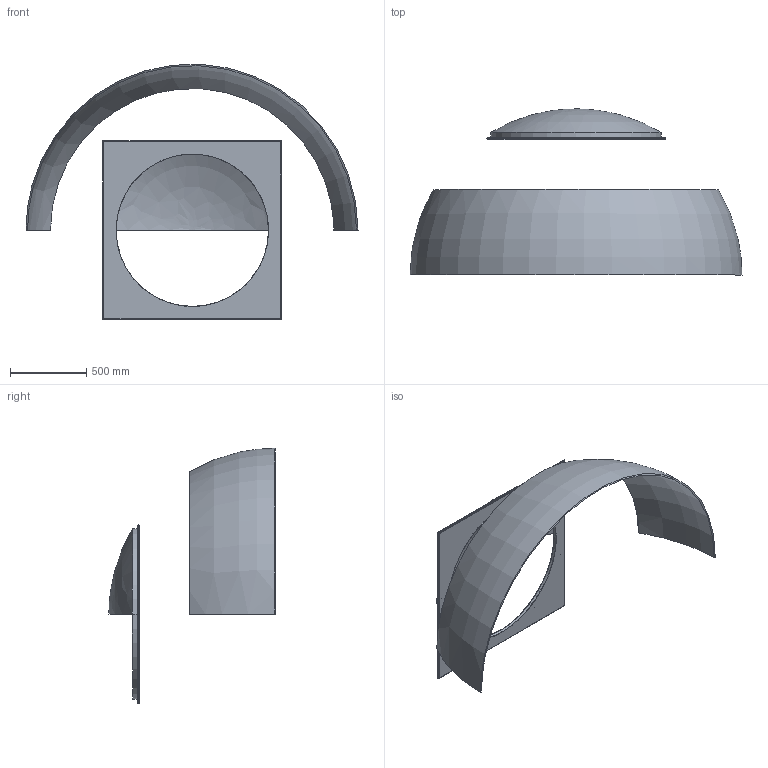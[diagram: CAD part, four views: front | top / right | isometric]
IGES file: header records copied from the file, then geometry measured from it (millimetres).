
Start section: SolidWorks IGES file using analytic representation for surfaces
Global section: file name: C:\Users\Stagiaire\Desktop\Rendu 3D\COUPOLE\794 Coupole 100\794_COUPOLE_100.IGS; native system: SolidWorks 2014; preprocessor: SolidWorks 2014; author: Stagiaire; date: 140915.095838; units: millimetre
Bounding box: 2180 x 1091.05 x 1677.4 mm (x, y, z)
Surface area: 6549093.8 mm2 (no closed solid volume)
Topology: 0 solids, 0 shells, 38 faces, 536 edges, 534 vertices
Faces by surface type: revolution 20, bspline 18
